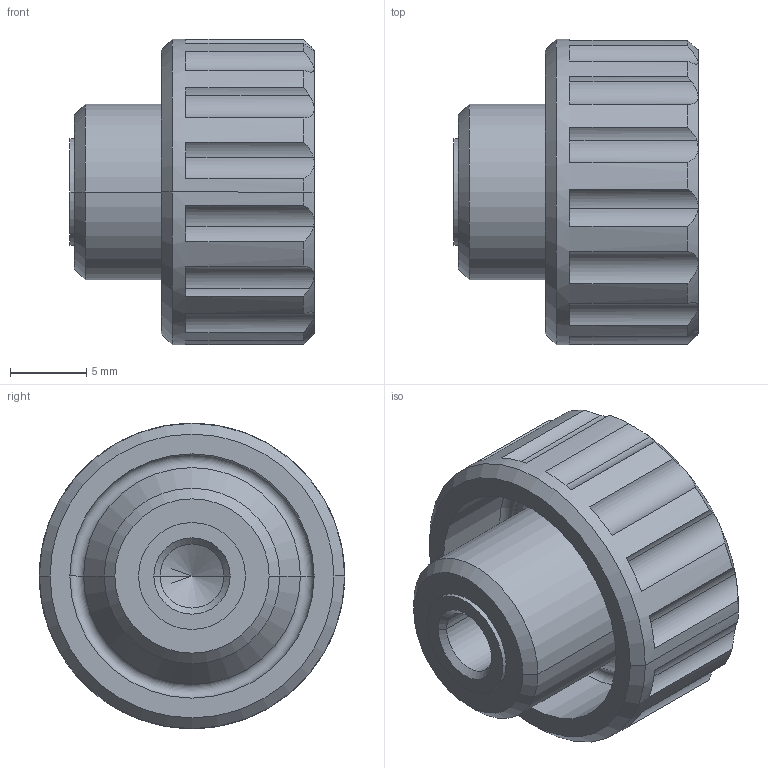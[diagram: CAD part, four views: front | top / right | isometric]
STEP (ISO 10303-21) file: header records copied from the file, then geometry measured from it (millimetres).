
FILE_DESCRIPTION (( 'STEP AP214' ), '1' );
FILE_NAME ('590-20-M5-E-ESD.step', '2025-06-16T12:57:03', ( '' ), ( '' ), 'SwSTEP 2.0', 'SolidWorks 2022', '' );
FILE_SCHEMA (( 'AUTOMOTIVE_DESIGN' ));
Length unit declared in the file: millimetre
Products named in the file (1): 590-20-M5-E-ESD
Bounding box: 16 x 20 x 20 mm (x, y, z)
Volume: 2458.5 mm3; surface area: 2087.6 mm2
Topology: 1 solids, 1 shells, 84 faces, 205 edges, 125 vertices
Faces by surface type: cylinder 34, cone 28, plane 20, torus 2
Entity records: 2765 total; most frequent: CARTESIAN_POINT 656, DIRECTION 440, ORIENTED_EDGE 406, EDGE_CURVE 203, AXIS2_PLACEMENT_3D 189, VERTEX_POINT 125, CIRCLE 104, EDGE_LOOP 88
